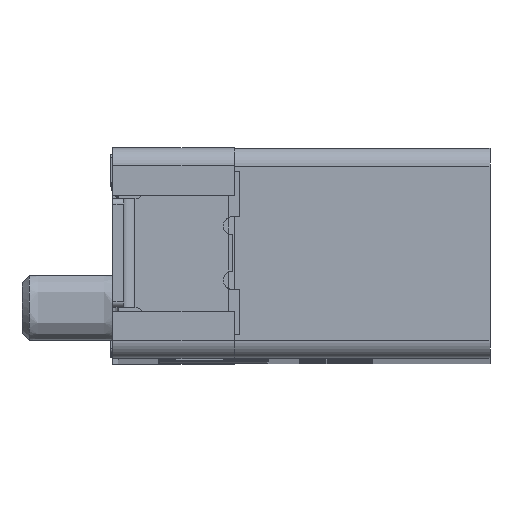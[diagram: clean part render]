
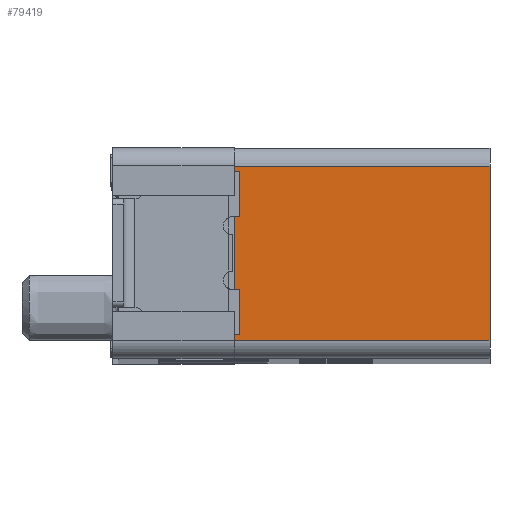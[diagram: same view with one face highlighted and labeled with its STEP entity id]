
A CAD part, top view. The second image highlights one B-rep face of the part: STEP entity #79419.
In plain terms, the highlighted planar face has unit normal (0, 0, 1).
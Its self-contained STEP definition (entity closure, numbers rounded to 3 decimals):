
#8656=DIRECTION('',(0.,1.,0.));
#8657=VECTOR('',#8656,4.8);
#8658=CARTESIAN_POINT('',(10.4,-2.4,44.5));
#8659=LINE('',#8658,#8657);
#9683=DIRECTION('',(1.,0.,0.));
#9684=VECTOR('',#9683,7.05);
#9685=CARTESIAN_POINT('',(3.35,-2.4,44.5));
#9686=LINE('',#9685,#9684);
#9691=DIRECTION('',(0.,1.,0.));
#9692=VECTOR('',#9691,4.8);
#9693=CARTESIAN_POINT('',(3.35,-2.4,44.5));
#9694=LINE('',#9693,#9692);
#9699=DIRECTION('',(-1.,0.,0.));
#9700=VECTOR('',#9699,7.05);
#9701=CARTESIAN_POINT('',(10.4,2.4,44.5));
#9702=LINE('',#9701,#9700);
#49815=CARTESIAN_POINT('',(3.35,2.4,44.5));
#49816=VERTEX_POINT('',#49815);
#49817=CARTESIAN_POINT('',(3.35,-2.4,44.5));
#49818=VERTEX_POINT('',#49817);
#50083=CARTESIAN_POINT('',(10.4,2.4,44.5));
#50084=VERTEX_POINT('',#50083);
#50085=CARTESIAN_POINT('',(10.4,-2.4,44.5));
#50086=VERTEX_POINT('',#50085);
#79407=CARTESIAN_POINT('',(0.,2.9,44.5));
#79408=DIRECTION('',(0.,0.,1.));
#79409=DIRECTION('',(0.,-1.,0.));
#79410=AXIS2_PLACEMENT_3D('',#79407,#79408,#79409);
#79411=PLANE('',#79410);
#79412=ORIENTED_EDGE('',*,*,#77731,.F.);
#79413=ORIENTED_EDGE('',*,*,#79400,.F.);
#79414=ORIENTED_EDGE('',*,*,#73074,.T.);
#79416=ORIENTED_EDGE('',*,*,#79415,.F.);
#79417=EDGE_LOOP('',(#79412,#79413,#79414,#79416));
#79418=FACE_OUTER_BOUND('',#79417,.F.);
#79419=ADVANCED_FACE('',(#79418),#79411,.T.);
#73074=EDGE_CURVE('',#49818,#49816,#9694,.T.);
#77731=EDGE_CURVE('',#50086,#50084,#8659,.T.);
#79400=EDGE_CURVE('',#49818,#50086,#9686,.T.);
#79415=EDGE_CURVE('',#50084,#49816,#9702,.T.);
